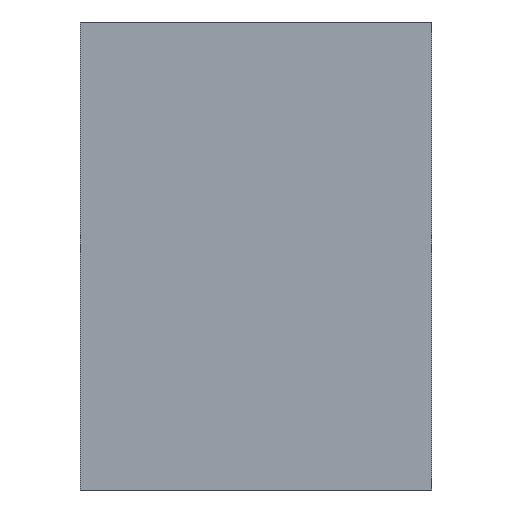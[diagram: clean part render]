
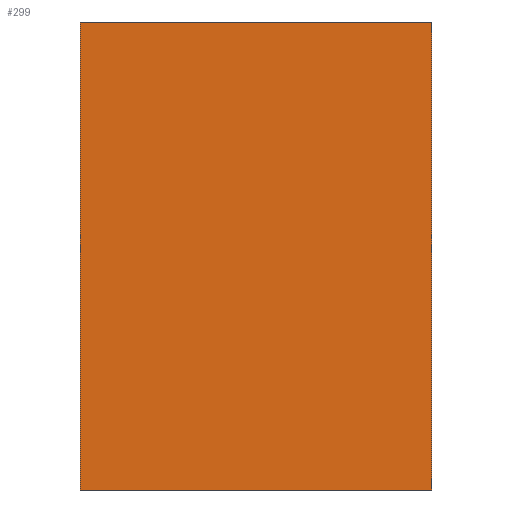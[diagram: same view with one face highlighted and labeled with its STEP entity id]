
A CAD part, left-side view. The second image highlights one B-rep face of the part: STEP entity #299.
In plain terms, the highlighted planar face has unit normal (-1, 0, 0).
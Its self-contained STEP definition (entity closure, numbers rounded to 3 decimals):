
#28=PLANE('',#348);
#43=FACE_OUTER_BOUND('',#62,.T.);
#62=EDGE_LOOP('',(#257,#258,#259,#260));
#78=LINE('',#487,#104);
#89=LINE('',#510,#115);
#90=LINE('',#513,#116);
#91=LINE('',#514,#117);
#104=VECTOR('',#401,10.);
#115=VECTOR('',#424,10.);
#116=VECTOR('',#427,10.);
#117=VECTOR('',#428,10.);
#153=VERTEX_POINT('',#484);
#154=VERTEX_POINT('',#486);
#160=VERTEX_POINT('',#508);
#161=VERTEX_POINT('',#512);
#185=EDGE_CURVE('',#153,#154,#78,.T.);
#197=EDGE_CURVE('',#153,#160,#89,.T.);
#198=EDGE_CURVE('',#161,#160,#90,.T.);
#199=EDGE_CURVE('',#154,#161,#91,.T.);
#257=ORIENTED_EDGE('',*,*,#197,.T.);
#258=ORIENTED_EDGE('',*,*,#198,.F.);
#259=ORIENTED_EDGE('',*,*,#199,.F.);
#260=ORIENTED_EDGE('',*,*,#185,.F.);
#299=ADVANCED_FACE('',(#43),#28,.T.);
#348=AXIS2_PLACEMENT_3D('',#511,#425,#426);
#401=DIRECTION('',(0.,1.,0.));
#424=DIRECTION('',(0.,0.,1.));
#425=DIRECTION('center_axis',(-1.,0.,0.));
#426=DIRECTION('ref_axis',(0.,-1.,0.));
#427=DIRECTION('',(0.,-1.,0.));
#428=DIRECTION('',(0.,0.,1.));
#484=CARTESIAN_POINT('',(-46.25,-7.5,-10.));
#486=CARTESIAN_POINT('',(-46.25,7.5,-10.));
#487=CARTESIAN_POINT('',(-46.25,7.5,-10.));
#508=CARTESIAN_POINT('',(-46.25,-7.5,10.));
#510=CARTESIAN_POINT('',(-46.25,-7.5,0.));
#511=CARTESIAN_POINT('Origin',(-46.25,7.5,0.));
#512=CARTESIAN_POINT('',(-46.25,7.5,10.));
#513=CARTESIAN_POINT('',(-46.25,7.5,10.));
#514=CARTESIAN_POINT('',(-46.25,7.5,0.));
